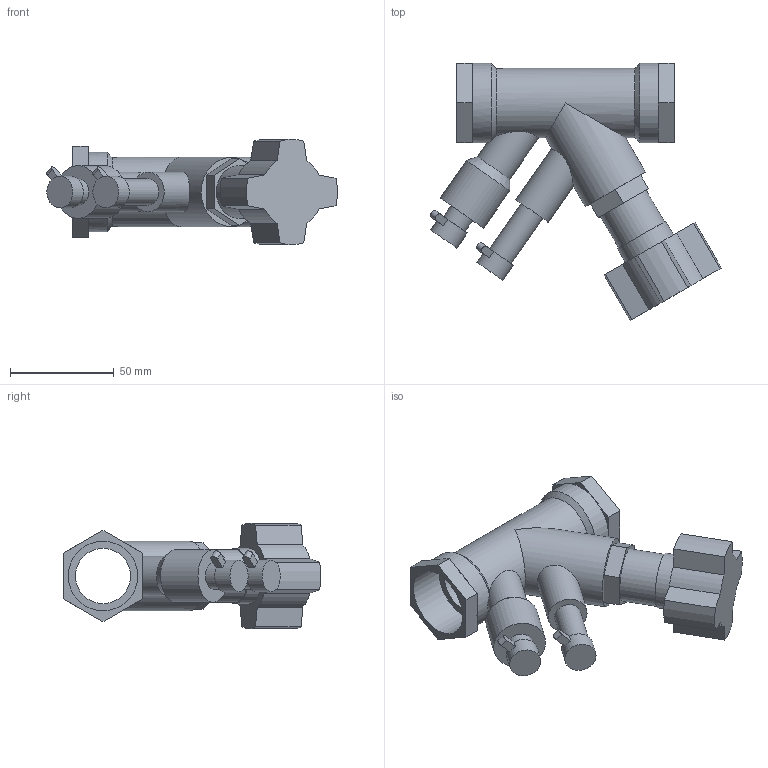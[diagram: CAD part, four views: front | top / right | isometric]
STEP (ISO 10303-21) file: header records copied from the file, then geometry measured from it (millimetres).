
FILE_DESCRIPTION(/* description */ ('VIC VALVE BALANCING TA SERIES 790 (FPT)-POTABLE WATER','CAx-IF Rec.Pracs.---Representation and Presentation of Product Manufacturing Information (PMI)---4.0---2014-10-13'),/* implementation_level */ '2;1');
FILE_NAME(/* name */ 'C:\Users\Vjadhav\Desktop\CAD for Inventor\1\790, 76X\STEP\Victaulic_IPS_Valve Balancing_TA Series 790 (FPT)-Potable Water\Victaulic_IPS_Valve Balancing_TA Series 790 (FPT)-Potable Water_1 (25).stp',/* time_stamp */ '2021-08-02T10:58:50+05:00',/* author */ ('cps_temp'),/* organization */ ('Victaulic'),/* preprocessor_version */ 'ST-DEVELOPER v17.2',/* originating_system */ 'Autodesk Inventor 2019',/* authorisation */ '');
FILE_SCHEMA (('AP242_MANAGED_MODEL_BASED_3D_ENGINEERING_MIM_LF { 1 0 10303 442 1 1 4 }'));
Length unit declared in the file: inch
Products named in the file (1): 790-01.0
Bounding box: 140.11 x 123.93 x 50.61 mm (x, y, z)
Volume: 149320.6 mm3; surface area: 42975.9 mm2
Topology: 1 solids, 1 shells, 88 faces, 221 edges, 146 vertices
Faces by surface type: plane 59, cylinder 26, cone 3
Full cylindrical faces by diameter (mm): 12.7 x2, 15.24 x2, 19.05 x2, 25.4 x2, 26.645 x1, 26.67 x1, 33.401 x4, 38.151 x2
Entity records: 2993 total; most frequent: CARTESIAN_POINT 578, DIRECTION 497, ORIENTED_EDGE 442, EDGE_CURVE 221, AXIS2_PLACEMENT_3D 182, VERTEX_POINT 146, LINE 133, VECTOR 133
